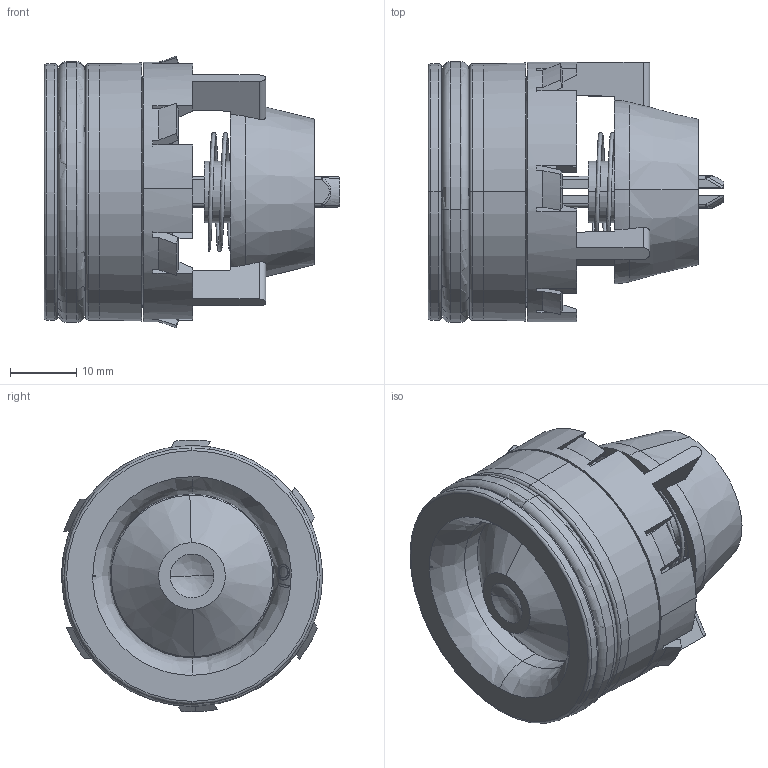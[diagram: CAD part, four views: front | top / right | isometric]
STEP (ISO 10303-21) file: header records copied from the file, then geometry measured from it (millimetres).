
FILE_DESCRIPTION (( 'STEP AP203' ), '1' );
FILE_NAME ('I0040-W149040620.STEP', '2020-04-08T14:37:00', ( '' ), ( '' ), 'SwSTEP 2.0', 'SolidWorks 2017', '' );
FILE_SCHEMA (( 'CONFIG_CONTROL_DESIGN' ));
Length unit declared in the file: metre
Products named in the file (7): Pièce32^ASM_FRVIR_0000002704; PRT_FRVIR_0000007903; FUR_FRVIR_0000000995; PRT_FRVIR_0000008049_D40Spl(monté); PRT_FRVIR_0000008067; I0040-W149040620; PRT_FRVIR_0000008078
Assembly tree (6 placements, depth 2):
  I0040-W149040620
    PRT_FRVIR_0000008067
    FUR_FRVIR_0000000995
    PRT_FRVIR_0000007903
    PRT_FRVIR_0000008049_D40Spl(monté)
    PRT_FRVIR_0000008078
    Pièce32^ASM_FRVIR_0000002704
Bounding box: 44.84 x 39.48 x 41.17 mm (x, y, z)
Volume: 16963.2 mm3; surface area: 19404.8 mm2
Topology: 10 solids, 10 shells, 472 faces, 1214 edges, 781 vertices
Faces by surface type: plane 212, bspline 96, cylinder 76, cone 70, torus 18
Entity records: 21659 total; most frequent: CARTESIAN_POINT 10224, ORIENTED_EDGE 2416, DIRECTION 1957, EDGE_CURVE 1208, VERTEX_POINT 781, AXIS2_PLACEMENT_3D 700, LINE 557, VECTOR 557
